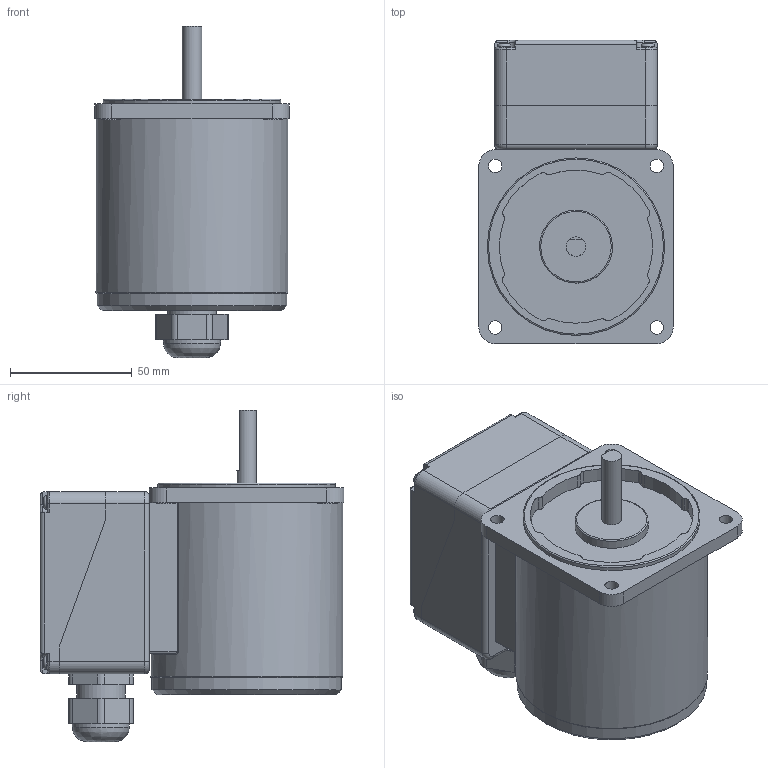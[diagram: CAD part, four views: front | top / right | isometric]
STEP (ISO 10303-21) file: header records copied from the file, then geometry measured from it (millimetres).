
FILE_DESCRIPTION((''),'2;1');
FILE_NAME('E:\2공장-도면\3D\표준형 3D(민규)\step file\K8IS25Nㅁ-T5.stp','2014-11-13T10:47:08',('AHN'),(''),'Autodesk Inventor 2012','Autodesk Inventor 2012','');
FILE_SCHEMA(('CONFIG_CONTROL_DESIGN'));
Length unit declared in the file: millimetre
Products named in the file (5): K8IS25Nㅁ-T5; K8IS25Nㅁ; COVER(a); 케이블; BASE(a)
Assembly tree (4 placements, depth 2):
  K8IS25Nㅁ-T5
    K8IS25Nㅁ
    COVER(a)
    케이블
    BASE(a)
Bounding box: 80 x 125 x 136.47 mm (x, y, z)
Volume: 510552.2 mm3; surface area: 81953.1 mm2
Topology: 4 solids, 4 shells, 508 faces, 1275 edges, 785 vertices
Faces by surface type: cylinder 232, plane 132, torus 94, bspline 21, sphere 20, cone 9
Full cylindrical faces by diameter (mm): 3.242 x4, 3.5 x4, 4.5 x4, 5.5 x8, 8 x5, 20 x1, 21 x1, 23.5 x1, 30 x1, 73 x1, 78 x1, 79 x1
Entity records: 15899 total; most frequent: CARTESIAN_POINT 3561, DIRECTION 2811, ORIENTED_EDGE 2392, EDGE_CURVE 1196, AXIS2_PLACEMENT_3D 1154, VERTEX_POINT 765, CIRCLE 650, EDGE_LOOP 595
